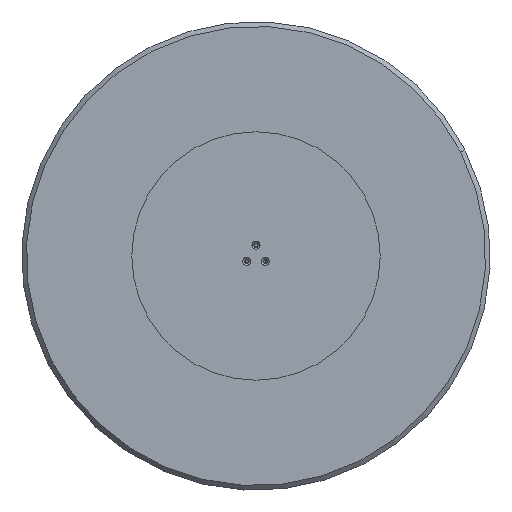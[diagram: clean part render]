
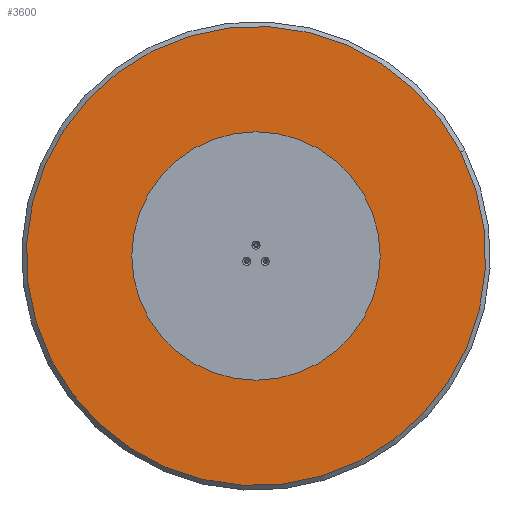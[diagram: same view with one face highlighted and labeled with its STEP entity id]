
A CAD part, front view. The second image highlights one B-rep face of the part: STEP entity #3600.
In plain terms, the highlighted planar face has unit normal (0, -1, 0).
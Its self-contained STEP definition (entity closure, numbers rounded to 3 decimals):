
#200 = ORIENTED_EDGE ( 'NONE', *, *, #449, .F. ) ;
#302 = AXIS2_PLACEMENT_3D ( 'NONE', #1548, #3966, #832 ) ;
#313 = EDGE_LOOP ( 'NONE', ( #428, #2799 ) ) ;
#356 = DIRECTION ( 'NONE',  ( 0., -1., 0. ) ) ;
#428 = ORIENTED_EDGE ( 'NONE', *, *, #893, .T. ) ;
#448 = DIRECTION ( 'NONE',  ( 0., 0., -1. ) ) ;
#449 = EDGE_CURVE ( 'NONE', #2153, #2862, #2524, .T. ) ;
#509 = VERTEX_POINT ( 'NONE', #1844 ) ;
#548 = AXIS2_PLACEMENT_3D ( 'NONE', #1098, #2664, #1434 ) ;
#571 = CIRCLE ( 'NONE', #3499, 3.4 ) ;
#581 = ORIENTED_EDGE ( 'NONE', *, *, #3568, .F. ) ;
#600 = CARTESIAN_POINT ( 'NONE',  ( 0., 0., 0. ) ) ;
#616 = CIRCLE ( 'NONE', #548, 3.4 ) ;
#646 = ORIENTED_EDGE ( 'NONE', *, *, #1117, .F. ) ;
#701 = EDGE_CURVE ( 'NONE', #1205, #2454, #2199, .T. ) ;
#783 = CIRCLE ( 'NONE', #1523, 3.4 ) ;
#804 = EDGE_LOOP ( 'NONE', ( #581, #3598 ) ) ;
#807 = AXIS2_PLACEMENT_3D ( 'NONE', #2694, #2676, #2733 ) ;
#832 = DIRECTION ( 'NONE',  ( 0., 0., -1. ) ) ;
#836 = AXIS2_PLACEMENT_3D ( 'NONE', #3976, #356, #1648 ) ;
#873 = EDGE_LOOP ( 'NONE', ( #1348, #2322 ) ) ;
#893 = EDGE_CURVE ( 'NONE', #2454, #1205, #2910, .T. ) ;
#925 = DIRECTION ( 'NONE',  ( 0., 0., -1. ) ) ;
#1009 = AXIS2_PLACEMENT_3D ( 'NONE', #3919, #3261, #2635 ) ;
#1032 = VERTEX_POINT ( 'NONE', #4072 ) ;
#1098 = CARTESIAN_POINT ( 'NONE',  ( 0., 0., 109.697 ) ) ;
#1117 = EDGE_CURVE ( 'NONE', #1032, #1494, #1211, .T. ) ;
#1147 = FACE_OUTER_BOUND ( 'NONE', #313, .T. ) ;
#1189 = AXIS2_PLACEMENT_3D ( 'NONE', #1663, #3265, #2658 ) ;
#1191 = FACE_BOUND ( 'NONE', #804, .T. ) ;
#1205 = VERTEX_POINT ( 'NONE', #2975 ) ;
#1211 = CIRCLE ( 'NONE', #1009, 3.4 ) ;
#1348 = ORIENTED_EDGE ( 'NONE', *, *, #3431, .F. ) ;
#1434 = DIRECTION ( 'NONE',  ( 0., 0., -1. ) ) ;
#1481 = EDGE_LOOP ( 'NONE', ( #646, #1517 ) ) ;
#1494 = VERTEX_POINT ( 'NONE', #2021 ) ;
#1517 = ORIENTED_EDGE ( 'NONE', *, *, #3283, .F. ) ;
#1523 = AXIS2_PLACEMENT_3D ( 'NONE', #3851, #2223, #3157 ) ;
#1548 = CARTESIAN_POINT ( 'NONE',  ( 0., 0., 0. ) ) ;
#1569 = EDGE_CURVE ( 'NONE', #2862, #2153, #616, .T. ) ;
#1579 = EDGE_LOOP ( 'NONE', ( #3842, #200 ) ) ;
#1648 = DIRECTION ( 'NONE',  ( 0., 0., -1. ) ) ;
#1663 = CARTESIAN_POINT ( 'NONE',  ( 0., 0., 109.697 ) ) ;
#1787 = AXIS2_PLACEMENT_3D ( 'NONE', #3724, #4002, #2485 ) ;
#1844 = CARTESIAN_POINT ( 'NONE',  ( -95., 0., -51.448 ) ) ;
#1859 = FACE_BOUND ( 'NONE', #1481, .T. ) ;
#1875 = CARTESIAN_POINT ( 'NONE',  ( 0., 0., 490. ) ) ;
#2021 = CARTESIAN_POINT ( 'NONE',  ( 0., 0., 3.4 ) ) ;
#2025 = DIRECTION ( 'NONE',  ( 0., 0., -1. ) ) ;
#2095 = FACE_BOUND ( 'NONE', #1579, .T. ) ;
#2101 = CARTESIAN_POINT ( 'NONE',  ( 0., 0., 106.297 ) ) ;
#2153 = VERTEX_POINT ( 'NONE', #3176 ) ;
#2199 = CIRCLE ( 'NONE', #3436, 490. ) ;
#2223 = DIRECTION ( 'NONE',  ( 0., -1., 0. ) ) ;
#2245 = DIRECTION ( 'NONE',  ( 0., -1., 0. ) ) ;
#2250 = CARTESIAN_POINT ( 'NONE',  ( 95., 0., -58.248 ) ) ;
#2322 = ORIENTED_EDGE ( 'NONE', *, *, #3992, .F. ) ;
#2358 = DIRECTION ( 'NONE',  ( 0., -1., 0. ) ) ;
#2419 = EDGE_CURVE ( 'NONE', #3387, #2731, #3612, .T. ) ;
#2454 = VERTEX_POINT ( 'NONE', #1875 ) ;
#2485 = DIRECTION ( 'NONE',  ( 0., 0., -1. ) ) ;
#2524 = CIRCLE ( 'NONE', #1189, 3.4 ) ;
#2586 = CIRCLE ( 'NONE', #3093, 3.4 ) ;
#2624 = CARTESIAN_POINT ( 'NONE',  ( -95., 0., -54.848 ) ) ;
#2635 = DIRECTION ( 'NONE',  ( 0., 0., -1. ) ) ;
#2658 = DIRECTION ( 'NONE',  ( 0., 0., -1. ) ) ;
#2664 = DIRECTION ( 'NONE',  ( 0., -1., 0. ) ) ;
#2676 = DIRECTION ( 'NONE',  ( 0., -1., 0. ) ) ;
#2694 = CARTESIAN_POINT ( 'NONE',  ( 0., 0., 0. ) ) ;
#2727 = FACE_BOUND ( 'NONE', #873, .T. ) ;
#2731 = VERTEX_POINT ( 'NONE', #2250 ) ;
#2733 = DIRECTION ( 'NONE',  ( 0., 0., -1. ) ) ;
#2799 = ORIENTED_EDGE ( 'NONE', *, *, #701, .T. ) ;
#2862 = VERTEX_POINT ( 'NONE', #2101 ) ;
#2910 = CIRCLE ( 'NONE', #807, 490. ) ;
#2959 = CIRCLE ( 'NONE', #1787, 3.4 ) ;
#2975 = CARTESIAN_POINT ( 'NONE',  ( 0., 0., -490. ) ) ;
#3068 = CARTESIAN_POINT ( 'NONE',  ( -95., 0., -58.248 ) ) ;
#3093 = AXIS2_PLACEMENT_3D ( 'NONE', #2624, #3254, #2025 ) ;
#3112 = PLANE ( 'NONE',  #302 ) ;
#3157 = DIRECTION ( 'NONE',  ( 0., 0., -1. ) ) ;
#3176 = CARTESIAN_POINT ( 'NONE',  ( 0., 0., 113.097 ) ) ;
#3236 = CARTESIAN_POINT ( 'NONE',  ( -95., 0., -54.848 ) ) ;
#3254 = DIRECTION ( 'NONE',  ( 0., -1., 0. ) ) ;
#3256 = CARTESIAN_POINT ( 'NONE',  ( 95., 0., -51.448 ) ) ;
#3261 = DIRECTION ( 'NONE',  ( 0., -1., 0. ) ) ;
#3265 = DIRECTION ( 'NONE',  ( 0., -1., 0. ) ) ;
#3283 = EDGE_CURVE ( 'NONE', #1494, #1032, #783, .T. ) ;
#3387 = VERTEX_POINT ( 'NONE', #3256 ) ;
#3431 = EDGE_CURVE ( 'NONE', #3678, #509, #571, .T. ) ;
#3436 = AXIS2_PLACEMENT_3D ( 'NONE', #600, #2245, #925 ) ;
#3499 = AXIS2_PLACEMENT_3D ( 'NONE', #3236, #2358, #448 ) ;
#3568 = EDGE_CURVE ( 'NONE', #2731, #3387, #2959, .T. ) ;
#3598 = ORIENTED_EDGE ( 'NONE', *, *, #2419, .F. ) ;
#3600 = ADVANCED_FACE ( 'NONE', ( #2727, #1191, #2095, #1859, #1147 ), #3112, .T. ) ;
#3612 = CIRCLE ( 'NONE', #836, 3.4 ) ;
#3678 = VERTEX_POINT ( 'NONE', #3068 ) ;
#3724 = CARTESIAN_POINT ( 'NONE',  ( 95., 0., -54.848 ) ) ;
#3842 = ORIENTED_EDGE ( 'NONE', *, *, #1569, .F. ) ;
#3851 = CARTESIAN_POINT ( 'NONE',  ( 0., 0., 0. ) ) ;
#3919 = CARTESIAN_POINT ( 'NONE',  ( 0., 0., 0. ) ) ;
#3966 = DIRECTION ( 'NONE',  ( 0., -1., 0. ) ) ;
#3976 = CARTESIAN_POINT ( 'NONE',  ( 95., 0., -54.848 ) ) ;
#3992 = EDGE_CURVE ( 'NONE', #509, #3678, #2586, .T. ) ;
#4002 = DIRECTION ( 'NONE',  ( 0., -1., 0. ) ) ;
#4072 = CARTESIAN_POINT ( 'NONE',  ( 0., 0., -3.4 ) ) ;
